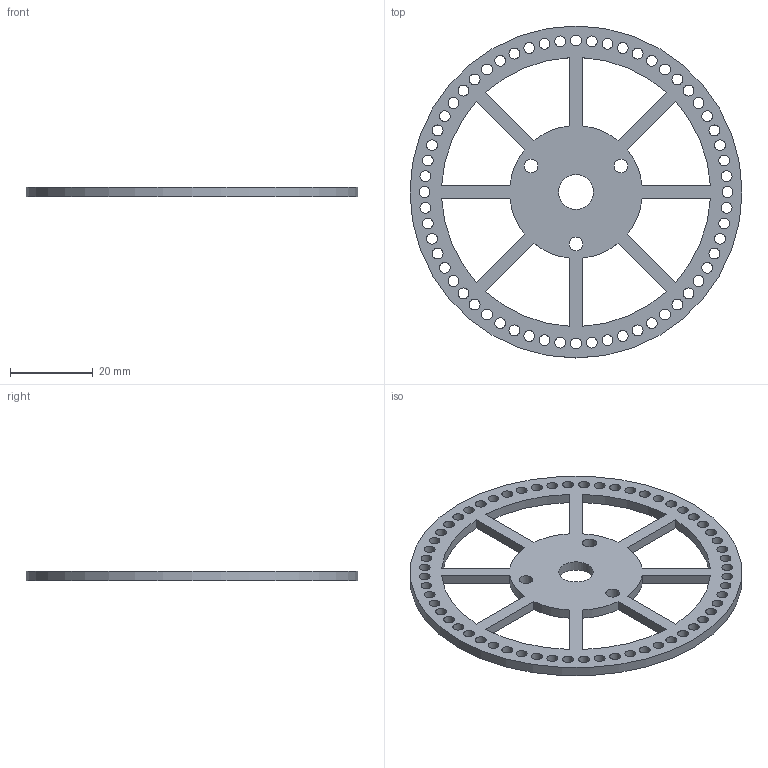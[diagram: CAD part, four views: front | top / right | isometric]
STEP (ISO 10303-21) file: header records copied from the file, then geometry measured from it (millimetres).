
FILE_DESCRIPTION(('Open CASCADE Model'),'2;1');
FILE_NAME('DM_flange_1','2026-11-05T16:12:31',('Author'),('Open CASCADE' ),'Open CASCADE STEP processor 7.9','build123d','Unknown');
FILE_SCHEMA(('AUTOMOTIVE_DESIGN { 1 0 10303 214 1 1 1 1 }'));
Length unit declared in the file: millimetre
Products named in the file (2): DM_flange_1
Assembly tree (1 placements, depth 2):
  DM_flange_1
    DM_flange_1
Bounding box: 80 x 80 x 2.4 mm (x, y, z)
Volume: 6128.2 mm3; surface area: 8262.4 mm2
Topology: 1 solids, 1 shells, 99 faces, 291 edges, 194 vertices
Faces by surface type: cylinder 81, plane 18
Full cylindrical faces by diameter (mm): 2.6 x60, 3.3 x3, 8.4 x1, 80 x1
Entity records: 7478 total; most frequent: DIRECTION 1205, CARTESIAN_POINT 1200, ORIENTED_EDGE 582, PCURVE 582, DEFINITIONAL_REPRESENTATION 582, LINE 517, VECTOR 517, CIRCLE 324
